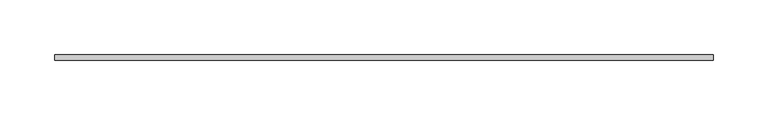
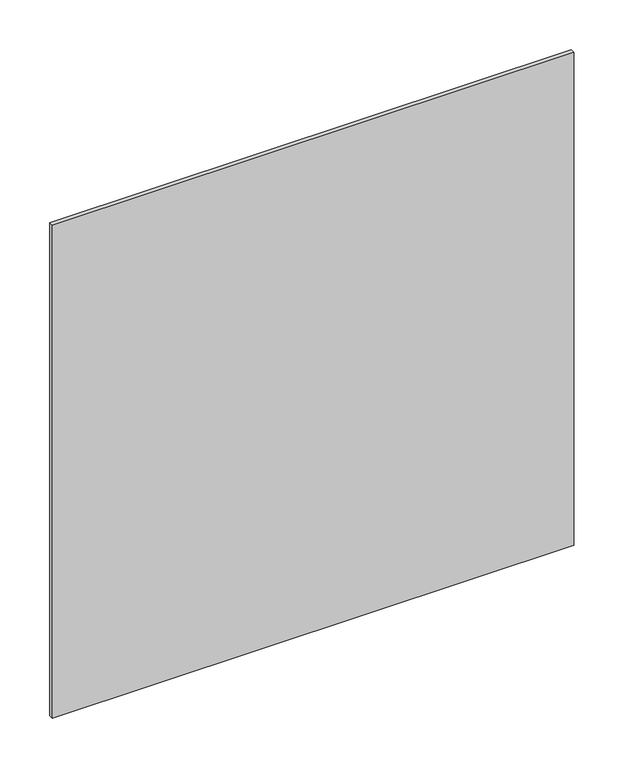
"""IFC4 building model written with IfcOpenShell, lengths in millimetres: plate geometry, Construction_Ceilings_Qwel-Tiles_Flat-Molded-Acoustic-Ceiling-Tiles : Flat Tile (Charcoal Heather)."""

from ifc_helpers import new_model, si_unit, frame, origin, place, context, project, spatial, polyline, outline, extrude, source, transform, mapped, element, save


def plate_562299b5(model_context):
    return source(origin(), model_context, "Body", "SweptSolid", [
        extrude(outline(polyline([(300.9900002, 0.0), (-300.9900002, 0.0), (-300.9900002, 4.9609375), (300.9900002, 4.9609375), (300.9900002, 0.0)])), frame((0.0, 0.0, 3.81), z_axis=(0.0, 0.0, 1.0), x_axis=(1.0, 0.0, 0.0)), (0.0, 0.0, 1.0), 601.98),
    ])


if __name__ == "__main__":
    model = new_model("IFC4")
    model_context = context("Model", 3, world=origin())
    ifc_project = project(units=[si_unit("LENGTHUNIT", "METRE", prefix="MILLI")], contexts=[model_context])
    site = spatial("IfcSite", under=ifc_project)
    building = spatial("IfcBuilding", under=site)
    placement = place(None, origin())
    plate_shape = plate_562299b5(model_context)
    element("IfcPlate", 1, ObjectType="Construction_Ceilings_Qwel-Tiles_Flat-Molded-Acoustic-Ceiling-Tiles : Flat Tile (Charcoal Heather)", at=placement, inside=building, context=model_context, shape_type="MappedRepresentation", body=[
        mapped(plate_shape, transform((0.0, 0.0, 0.0), x_axis=(1.0, 0.0, 0.0), y_axis=(0.0, 1.0, 0.0), z_axis=(0.0, 0.0, 1.0))),
    ])
    save(model, "model.ifc")
